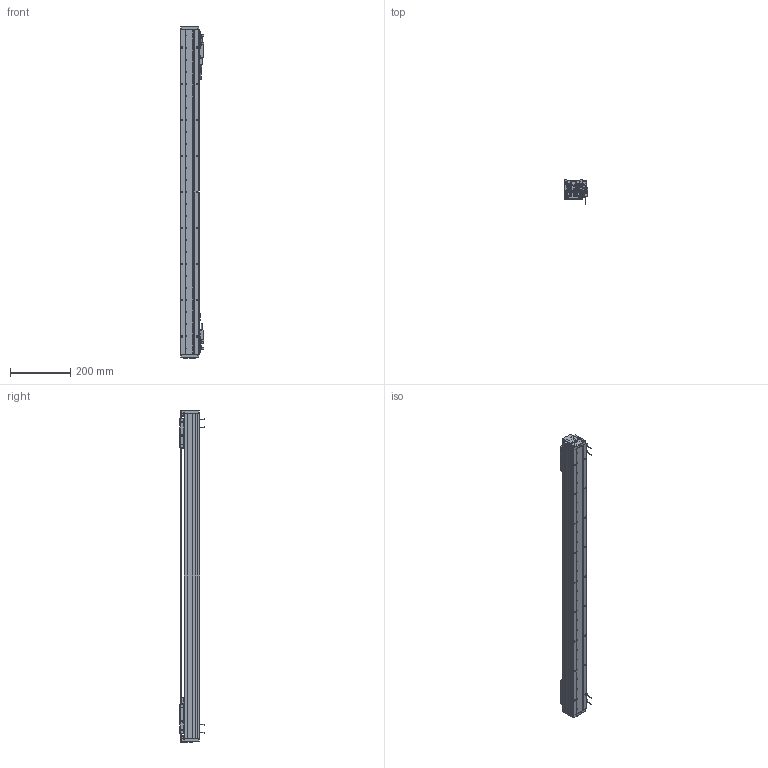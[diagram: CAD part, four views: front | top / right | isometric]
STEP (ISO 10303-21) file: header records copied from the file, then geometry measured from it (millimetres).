
FILE_DESCRIPTION (( 'STEP AP203' ), '1' );
FILE_NAME ('DA-A60-2-B1-T840-C010-0.2 眻盄萇儂.STEP', '2025-08-13T01:22:46', ( '' ), ( '' ), 'SwSTEP 2.0', 'SolidWorks 2019', '' );
FILE_SCHEMA (( 'CONFIG_CONTROL_DESIGN' ));
Length unit declared in the file: millimetre
Products named in the file (27): 葩璃 DA60-DG-H-N-00 傷裔^DA-A60-2-B1-T60-C010-0.2-N; 葩璃 XD-U-02  棠掑喜^DA-A60-2-B1-T60-C010-0.2-N; 复件 DA60-GT-T-00 底座钢轨^AU60-L 底座导轨; DA60-B1-HT-B-03 賑雄怢啣; 复件 纯铜油杯 6x6mm^AU60-V 滚珠滑台; DA60-YT-B1-HT-B-01 珨极趙賑雄怢啣-1; 葩璃 鞠褒情蹟譫 M3^DA-A60-2-B1-T60-C010-0.2-N(GB_FASTENER_NUT_STNAB M3-C); ｸｴｼ DA-A60-GYP-DMT-00 ｹ箏邵ﾐﾓｦﾆｬ^DA-A60-2-B1-T60-C010-0.2-N(ﾄｬﾈﾏ); AU60-L 菁釱絳寢; DA60-YT-B1-HT-B-01 珨极趙賑雄怢啣; 葩璃 AKM01-W030-TRL^DA-A60-2-B1-T60-C010-0.2-N; 葩璃 PM-Y65^DA-A60-2-B1-T60-C010-0.2-N; 葩璃 DMT-010 1米m 0.2M^DA-A60-2-B1-T60-C010-0.2-N; IU-AU60-L-00 菁釱(1080); ｸｴｼ DA60-GYP-ZJ-01 ﾖﾐｼ荵箏邵ﾐﾓｦﾆｬ^DA-A60-2-B1-T60-C010-0.2-N(ﾄｬﾈﾏ); 复件 DA60-B1-GT-00 滑块钢轨^DA60-YT-B1-HT-B-01 一体化滑动台板; ｸｴｼ BAKM01-W030-C1-TP-0.2 ﾖｱﾏﾟｵ扈巐ｯﾗﾓ^DA-A60-2-B1-T60-C010-0.2-N; 葩璃 DA60-XJ-00 砎蝶結輸^DA-A60-2-B1-T60-C010-0.2-N; DA60-T-002-00  裔啣; AU60-V 幗紩賑怢-1; AU60-V 幗紩賑怢; 复件 DA60-HC-XJ-01 中间缓冲橡胶^DA-A60-2-B1-T60-C010-0.2-N; 葩璃 DA60-DMT-DTJ-00 黍杅芛盓殤^DA-A60-2-B1-T60-C010-0.2-N; DA-A60-2-B1-T840-C010-0.2 眻盄萇儂; ｸｴｼ DA60-DMT-DTJ-ZJ-00 ﾖﾐｼ荼ﾁﾊﾍｷﾖｧｼﾜ^DA-A60-2-B1-T60-C010-0.2-N; 葩璃 DA60-HK-DP-01 結え^AU60-V 幗紩賑怢; 葩璃 PM-T45^DA-A60-2-B1-T60-C010-0.2-N
Assembly tree (51 placements, depth 4):
  DA-A60-2-B1-T840-C010-0.2 眻盄萇儂
    AU60-L 菁釱絳寢
      IU-AU60-L-00 菁釱(1080)
      复件 DA60-GT-T-00 底座钢轨^AU60-L 底座导轨  x2
    AU60-V 幗紩賑怢
      DA60-YT-B1-HT-B-01 珨极趙賑雄怢啣
        DA60-B1-HT-B-03 賑雄怢啣
        复件 DA60-B1-GT-00 滑块钢轨^DA60-YT-B1-HT-B-01 一体化滑动台板  x2
      葩璃 DA60-HK-DP-01 結え^AU60-V 幗紩賑怢  x2
      复件 纯铜油杯 6x6mm^AU60-V 滚珠滑台
    AU60-V 幗紩賑怢-1
      DA60-YT-B1-HT-B-01 珨极趙賑雄怢啣-1
        DA60-B1-HT-B-03 賑雄怢啣
        复件 DA60-B1-GT-00 滑块钢轨^DA60-YT-B1-HT-B-01 一体化滑动台板  x2
      葩璃 DA60-HK-DP-01 結え^AU60-V 幗紩賑怢  x2
      复件 纯铜油杯 6x6mm^AU60-V 滚珠滑台
    ｸｴｼ DA60-DMT-DTJ-ZJ-00 ﾖﾐｼ荼ﾁﾊﾍｷﾖｧｼﾜ^DA-A60-2-B1-T60-C010-0.2-N
    葩璃 PM-Y65^DA-A60-2-B1-T60-C010-0.2-N
    复件 DA60-HC-XJ-01 中间缓冲橡胶^DA-A60-2-B1-T60-C010-0.2-N  x2
    ｸｴｼ DA60-GYP-ZJ-01 ﾖﾐｼ荵箏邵ﾐﾓｦﾆｬ^DA-A60-2-B1-T60-C010-0.2-N(ﾄｬﾈﾏ)
    ｸｴｼ DA-A60-GYP-DMT-00 ｹ箏邵ﾐﾓｦﾆｬ^DA-A60-2-B1-T60-C010-0.2-N(ﾄｬﾈﾏ)  x2
    葩璃 DA60-DMT-DTJ-00 黍杅芛盓殤^DA-A60-2-B1-T60-C010-0.2-N
    葩璃 DMT-010 1米m 0.2M^DA-A60-2-B1-T60-C010-0.2-N  x2
    ｸｴｼ BAKM01-W030-C1-TP-0.2 ﾖｱﾏﾟｵ扈巐ｯﾗﾓ^DA-A60-2-B1-T60-C010-0.2-N  x2
    葩璃 DA60-XJ-00 砎蝶結輸^DA-A60-2-B1-T60-C010-0.2-N  x2
    葩璃 DA60-DG-H-N-00 傷裔^DA-A60-2-B1-T60-C010-0.2-N  x2
    DA60-T-002-00  裔啣
    葩璃 AKM01-W030-TRL^DA-A60-2-B1-T60-C010-0.2-N
    葩璃 PM-T45^DA-A60-2-B1-T60-C010-0.2-N  x4
    葩璃 XD-U-02  棠掑喜^DA-A60-2-B1-T60-C010-0.2-N
    葩璃 鞠褒情蹟譫 M3^DA-A60-2-B1-T60-C010-0.2-N(GB_FASTENER_NUT_STNAB M3-C)  x8
Bounding box: 76.95 x 80 x 1104 mm (x, y, z)
Volume: 2380866 mm3; surface area: 849873.8 mm2
Topology: 57 solids, 61 shells, 3977 faces, 10321 edges, 6338 vertices
Faces by surface type: plane 1536, cylinder 1493, bspline 592, cone 342, torus 12, sphere 2
Entity records: 92323 total; most frequent: CARTESIAN_POINT 28105, ORIENTED_EDGE 13196, DIRECTION 12005, EDGE_CURVE 6598, AXIS2_PLACEMENT_3D 4180, VERTEX_POINT 4177, LINE 3645, VECTOR 3645
